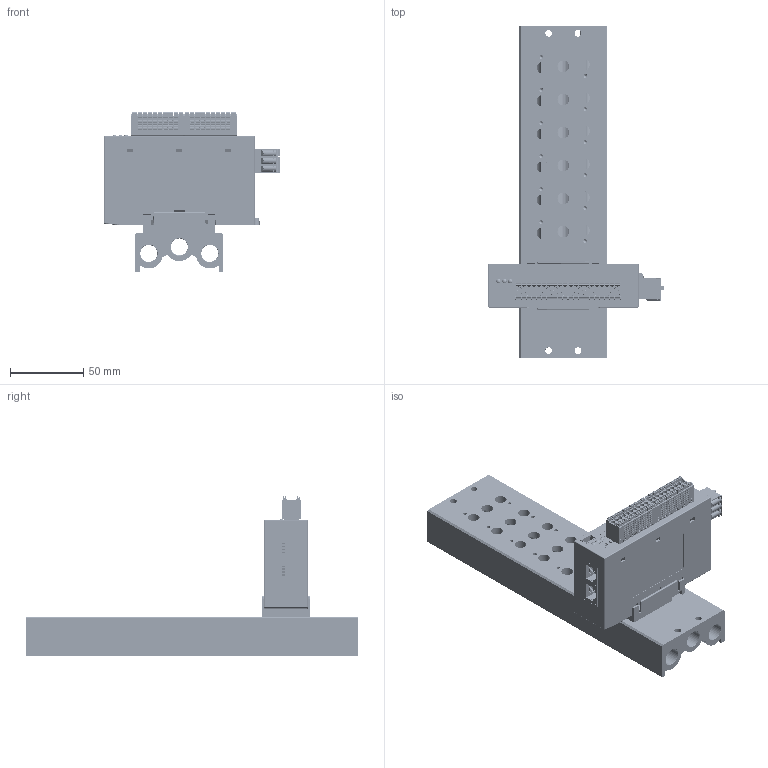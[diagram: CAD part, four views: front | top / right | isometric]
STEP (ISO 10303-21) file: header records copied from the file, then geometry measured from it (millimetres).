
FILE_DESCRIPTION(/* description */ (''),/* implementation_level */ '2;1');
FILE_NAME(/* name */ '',/* time_stamp */ '2025-10-09T15:22:01+08:00',/* author */ (''),/* organization */ (''),/* preprocessor_version */ 'ST-DEVELOPER v14',/* originating_system */ 'SIEMENS PLM Software NX 8.0',/* authorisation */ '');
FILE_SCHEMA (('AUTOMOTIVE_DESIGN { 1 0 10303 214 3 1 1 1 }'));
Products named in the file (1): DELL3E5857E9ub2z
Bounding box: 119.8 x 226 x 108.48 mm (x, y, z)
Volume: 403657.8 mm3; surface area: 130814 mm2
Topology: 2 solids, 227 shells, 9907 faces, 26247 edges, 17086 vertices
Faces by surface type: plane 6471, cylinder 2267, bspline 341, torus 336, cone 214, extrusion 183, sphere 95
Full cylindrical faces by diameter (mm): 0.18 x2, 2.5 x17, 3.05 x40, 3.3 x3, 3.5 x4, 4 x4, 4.5 x4, 6 x4, 8 x18, 9.6 x1, 11.5 x5, 11.8 x6
Entity records: 327059 total; most frequent: CARTESIAN_POINT 83610, ORIENTED_EDGE 51442, DIRECTION 48412, EDGE_CURVE 25721, VECTOR 18344, LINE 18161, VERTEX_POINT 16952, AXIS2_PLACEMENT_3D 15034
